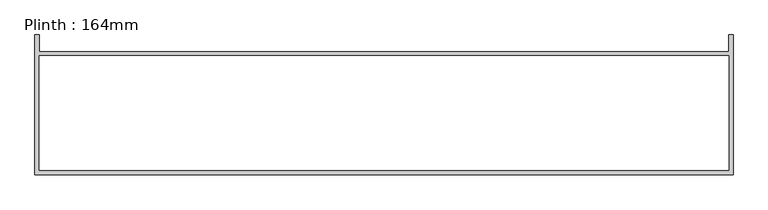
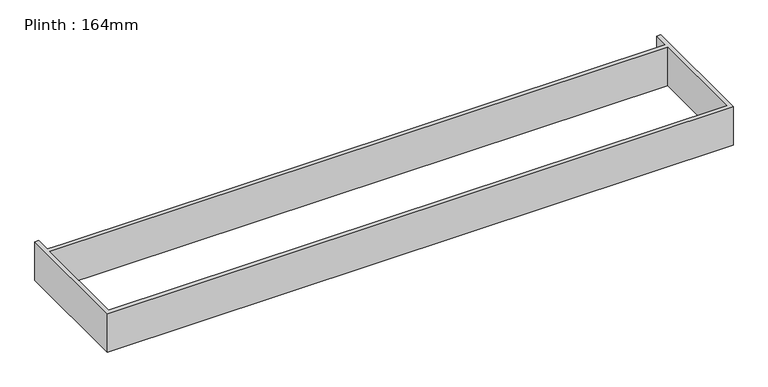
"""IFC4 building model written with IfcOpenShell, lengths in millimetres: furniture geometry, Plinth : 164mm."""

import ifcopenshell
import ifcopenshell.guid

model = None  # the IFC model being written
_history = None  # IfcOwnerHistory: only IFC2X3 demands one
_inside = {}  # id of a spatial element -> (the spatial element, [elements in it])
_under = {}  # id of a project, library or spatial element -> (it, [spatial elements below it])
_declared = {}  # id of a project -> (the project, [libraries it declares])
_typed = {}  # id of a type object -> (the type object, [elements of that type])
_made_of = {}  # id of a material, layer set ... -> (it, [elements and type objects made of it])


def new_model(schema):
    """Start an empty IFC model of exactly this schema.

    Asked for "IFC4X3", IfcOpenShell would pick the latest addendum, in which some entities
    have other attributes; the version numbers below select the first issue.
    IFC2X3 requires an IfcOwnerHistory on every rooted entity: one is made here for all.
    """
    global model, _history
    if schema == "IFC4X3":
        model = ifcopenshell.file(schema_version=(4, 3, 0, 0))
    else:
        model = ifcopenshell.file(schema=schema)
    _inside.clear()
    _under.clear()
    _declared.clear()
    _typed.clear()
    _made_of.clear()
    _history = None
    if model.schema == "IFC2X3":
        org = make("IfcOrganization", Name="unknown")
        user = make(
            "IfcPersonAndOrganization",
            ThePerson=make("IfcPerson", FamilyName="unknown"),
            TheOrganization=org,
        )
        app = make(
            "IfcApplication",
            ApplicationDeveloper=org,
            Version="unknown",
            ApplicationFullName="unknown",
            ApplicationIdentifier="unknown",
        )
        _history = make(
            "IfcOwnerHistory",
            OwningUser=user,
            OwningApplication=app,
            ChangeAction="ADDED",
            CreationDate=0,
        )
    return model


def make(cls, **values):
    """One entity of the class cls with the attributes given. An attribute that is None is left unset."""
    return model.create_entity(
        cls, **{name: value for name, value in values.items() if value is not None}
    )


def rooted(cls, **values):
    """An entity with a GlobalId (a new one), such as an element, a storey or a relation."""
    return make(cls, GlobalId=ifcopenshell.guid.new(), OwnerHistory=_history, **values)


def si_unit(unit_type, name, prefix=None):
    """IfcSIUnit, for example si_unit("LENGTHUNIT", "METRE", prefix="MILLI")."""
    return make("IfcSIUnit", UnitType=unit_type, Prefix=prefix, Name=name)


def assignment(units):
    """IfcUnitAssignment: the units of a project."""
    return None if units is None else make("IfcUnitAssignment", Units=units)


def point(xyz):
    """IfcCartesianPoint."""
    return None if xyz is None else make("IfcCartesianPoint", Coordinates=xyz)


def direction(xyz):
    """IfcDirection."""
    return None if xyz is None else make("IfcDirection", DirectionRatios=xyz)


def frame(location, z_axis=None, x_axis=None):
    """IfcAxis2Placement3D, a coordinate frame: its origin and axes. An axis left out is left unset."""
    return make(
        "IfcAxis2Placement3D",
        Location=point(location),
        Axis=direction(z_axis),
        RefDirection=direction(x_axis),
    )


def origin():
    """The frame at (0, 0, 0) with its axes left unset."""
    return frame((0.0, 0.0, 0.0))


def origin_with_axes():
    """The frame at (0, 0, 0) with the z axis (0, 0, 1) and the x axis (1, 0, 0) written out."""
    return frame((0.0, 0.0, 0.0), z_axis=(0.0, 0.0, 1.0), x_axis=(1.0, 0.0, 0.0))


def place(relative_to, where):
    """IfcLocalPlacement: puts the frame where relative to a parent placement (None: the world)."""
    return make(
        "IfcLocalPlacement", PlacementRelTo=relative_to, RelativePlacement=where
    )


def context(
    kind, dimensions, precision=None, world=None, true_north=None, identifier=None
):
    """IfcGeometricRepresentationContext, for example the 3D "Model" context."""
    return make(
        "IfcGeometricRepresentationContext",
        ContextIdentifier=identifier,
        ContextType=kind,
        CoordinateSpaceDimension=dimensions,
        Precision=precision,
        WorldCoordinateSystem=world,
        TrueNorth=true_north,
    )


def project(units=None, contexts=None):
    """IfcProject with its units and contexts."""
    return rooted(
        "IfcProject",
        Name="project",
        RepresentationContexts=contexts,
        UnitsInContext=assignment(units),
    )


def spatial(cls, under=None, at=None, **own):
    """A site, building, storey or space (cls), placed at a placement, below another one or the project."""
    s = rooted(cls, ObjectPlacement=at, **own)
    if under is not None:
        _under.setdefault(under.id(), (under, []))[1].append(s)
    return s


def polyline(points):
    """IfcPolyline through the points."""
    return make("IfcPolyline", Points=[point(p) for p in points])


def outline(outer, holes=None, kind="AREA"):
    """IfcArbitraryClosedProfileDef: a profile drawn as a closed curve; with holes, ...WithVoids."""
    if holes is None:
        return make("IfcArbitraryClosedProfileDef", ProfileType=kind, OuterCurve=outer)
    return make(
        "IfcArbitraryProfileDefWithVoids",
        ProfileType=kind,
        OuterCurve=outer,
        InnerCurves=holes,
    )


def extrude(swept, where, along, depth):
    """IfcExtrudedAreaSolid: the profile swept, set in the frame where, extruded along a direction by depth."""
    return make(
        "IfcExtrudedAreaSolid",
        SweptArea=swept,
        Position=where,
        ExtrudedDirection=direction(along),
        Depth=depth,
    )


def shape(context_of_items, identifier, shape_type, items):
    """IfcShapeRepresentation: the items that make up one representation, for example the "Body"."""
    return make(
        "IfcShapeRepresentation",
        ContextOfItems=context_of_items,
        RepresentationIdentifier=identifier,
        RepresentationType=shape_type,
        Items=items,
    )


def source(mapping_origin, context_of_items, identifier, shape_type, items):
    """IfcRepresentationMap: a shape defined once, which mapped items show again and again."""
    return make(
        "IfcRepresentationMap",
        MappingOrigin=mapping_origin,
        MappedRepresentation=shape(context_of_items, identifier, shape_type, items),
    )


def transform(
    local_origin,
    x_axis=None,
    y_axis=None,
    z_axis=None,
    scale=None,
    scale2=None,
    scale3=None,
    uniform=True,
):
    """IfcCartesianTransformationOperator3D, or its non-uniform kind. x_axis, y_axis, z_axis: its Axis1, 2, 3."""
    if uniform:
        return make(
            "IfcCartesianTransformationOperator3D",
            Axis1=direction(x_axis),
            Axis2=direction(y_axis),
            LocalOrigin=point(local_origin),
            Scale=scale,
            Axis3=direction(z_axis),
        )
    return make(
        "IfcCartesianTransformationOperator3DnonUniform",
        Axis1=direction(x_axis),
        Axis2=direction(y_axis),
        LocalOrigin=point(local_origin),
        Scale=scale,
        Axis3=direction(z_axis),
        Scale2=scale2,
        Scale3=scale3,
    )


def mapped(mapping_source, mapping_target):
    """IfcMappedItem: shows the shape of a source again, moved by a transform."""
    return make(
        "IfcMappedItem", MappingSource=mapping_source, MappingTarget=mapping_target
    )


def made_of(thing, what):
    """Note that an element or type object is made of a material, layer set ...; save() writes the relation."""
    if what is not None:
        _made_of.setdefault(what.id(), (what, []))[1].append(thing)
    return thing


def element(
    cls,
    number,
    at=None,
    inside=None,
    cuts=None,
    type_object=None,
    material=None,
    context=None,
    identifier="Body",
    shape_type=None,
    held_by="IfcProductDefinitionShape",
    body=None,
    shapes=None,
    **own,
):
    """One element of the class cls, such as IfcWall. Its Tag is "e" and its number.

    at: its placement. inside: the storey or other place that contains it. cuts: it is an
    opening in that element (IfcRelVoidsElement). A single representation is given by context,
    identifier, shape_type and body (its items); several are given by shapes. held_by: the class
    of the entity that holds the representations. save() writes the other relations.
    """
    e = rooted(cls, Tag="e%d" % number, ObjectPlacement=at, **own)
    if body is not None:
        shapes = [shape(context, identifier, shape_type, body)]
    if shapes is not None:
        e.Representation = make(held_by, Representations=shapes)
    if inside is not None:
        _inside.setdefault(inside.id(), (inside, []))[1].append(e)
    if cuts is not None:
        rooted(
            "IfcRelVoidsElement", RelatingBuildingElement=cuts, RelatedOpeningElement=e
        )
    if type_object is not None:
        _typed.setdefault(type_object.id(), (type_object, []))[1].append(e)
    return made_of(e, material)


def aggregate(whole, parts):
    """IfcRelAggregates: a whole, such as a stair, and the parts it consists of."""
    return rooted("IfcRelAggregates", RelatingObject=whole, RelatedObjects=parts)


def save(model, path):
    """Write the relations noted so far, then the file.

    IfcRelAggregates (storeys below a building ...), IfcRelContainedInSpatialStructure (elements
    in a storey), IfcRelDefinesByType, IfcRelAssociatesMaterial and IfcRelDeclares: one each for
    every whole, place, type object, material and project.
    """
    for whole, parts in _under.values():
        aggregate(whole, parts)
    for where, things in _inside.values():
        rooted(
            "IfcRelContainedInSpatialStructure",
            RelatedElements=things,
            RelatingStructure=where,
        )
    for kind, things in _typed.values():
        rooted("IfcRelDefinesByType", RelatedObjects=things, RelatingType=kind)
    for what, things in _made_of.values():
        rooted("IfcRelAssociatesMaterial", RelatedObjects=things, RelatingMaterial=what)
    for by, libraries in _declared.values():
        rooted("IfcRelDeclares", RelatingContext=by, RelatedDefinitions=libraries)
    model.write(path)


def plinth_164mm_10810e33(model_context):
    return source(origin(), model_context, "Body", "SweptSolid", [
        extrude(outline(polyline([(1304.7003264, -505.0), (-1215.2996736, -505.0), (-1215.2996736, 0.0), (-1199.2996736, 0.0), (-1199.2996736, -60.0), (-1135.2996736, -60.0), (1288.7003264, -60.0), (1288.7003264, 0.0), (1304.7003264, 0.0), (1304.7003264, -505.0)]), holes=[polyline([(1288.7003264, -76.0), (-1199.2996736, -76.0), (-1199.2996736, -489.0), (1288.7003264, -489.0), (1288.7003264, -76.0)])]), origin_with_axes(), (0.0, 0.0, 1.0), 164.0),
    ])


if __name__ == "__main__":
    model = new_model("IFC4")
    model_context = context("Model", 3, world=origin())
    ifc_project = project(units=[si_unit("LENGTHUNIT", "METRE", prefix="MILLI")], contexts=[model_context])
    site = spatial("IfcSite", under=ifc_project)
    building = spatial("IfcBuilding", under=site)
    placement = place(None, origin())
    plinth_164mm_shape = plinth_164mm_10810e33(model_context)
    element("IfcFurniture", 1, ObjectType="Plinth : 164mm", at=placement, inside=building, context=model_context, shape_type="MappedRepresentation", body=[
        mapped(plinth_164mm_shape, transform((0.0, 0.0, 0.0), x_axis=(1.0, 0.0, 0.0), y_axis=(0.0, 1.0, 0.0), z_axis=(0.0, 0.0, 1.0))),
    ])
    save(model, "model.ifc")
